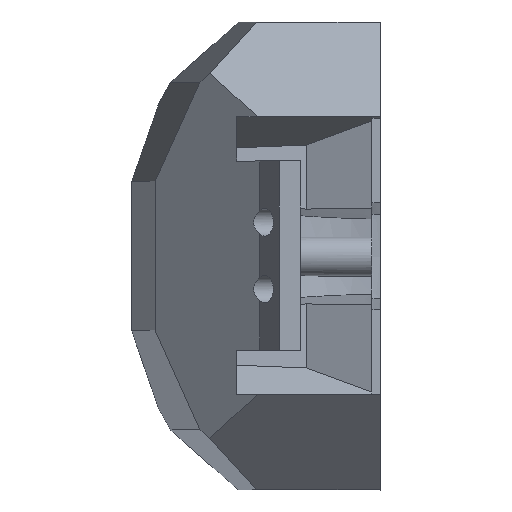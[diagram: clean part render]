
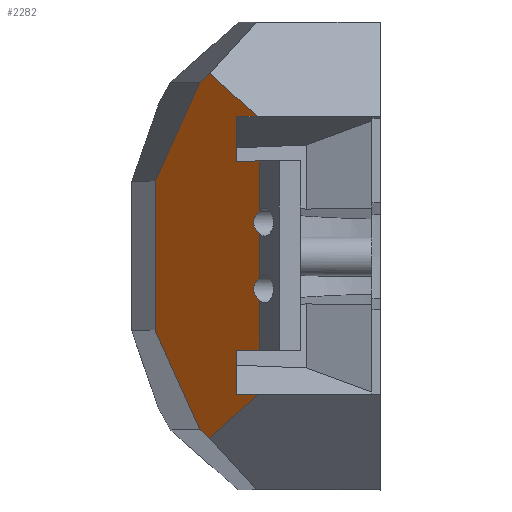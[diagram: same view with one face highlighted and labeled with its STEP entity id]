
A CAD part, top view. The second image highlights one B-rep face of the part: STEP entity #2282.
In plain terms, the highlighted planar face has unit normal (-0.676, 0, 0.737).
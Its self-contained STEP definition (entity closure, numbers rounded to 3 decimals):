
#22=DIRECTION('',(0.,-1.,0.));
#23=VECTOR('',#22,8.979);
#24=CARTESIAN_POINT('',(-25.817,17.,51.278));
#25=LINE('',#24,#23);
#34=DIRECTION('',(0.,-1.,0.));
#35=VECTOR('',#34,8.979);
#36=CARTESIAN_POINT('',(-25.817,-8.021,51.278));
#37=LINE('',#36,#35);
#58=DIRECTION('',(0.,-1.,0.));
#59=VECTOR('',#58,7.958);
#60=CARTESIAN_POINT('',(-25.817,3.979,51.278));
#61=LINE('',#60,#59);
#66=CARTESIAN_POINT('',(-25.817,3.979,51.278));
#67=CARTESIAN_POINT('',(-26.321,4.316,50.816));
#68=CARTESIAN_POINT('',(-26.782,4.99,50.394));
#69=CARTESIAN_POINT('',(-27.017,6.,50.178));
#70=CARTESIAN_POINT('',(-26.782,7.01,50.394));
#71=CARTESIAN_POINT('',(-26.321,7.684,50.816));
#72=CARTESIAN_POINT('',(-25.817,8.021,51.278));
#74=CARTESIAN_POINT('',(-25.817,-8.021,51.278));
#75=CARTESIAN_POINT('',(-26.321,-7.684,50.816));
#76=CARTESIAN_POINT('',(-26.782,-7.01,50.394));
#77=CARTESIAN_POINT('',(-27.017,-6.,50.178));
#78=CARTESIAN_POINT('',(-26.782,-4.99,50.394));
#79=CARTESIAN_POINT('',(-26.321,-4.316,50.816));
#80=CARTESIAN_POINT('',(-25.817,-3.979,51.278));
#82=DIRECTION('',(-0.737,0.,-0.676));
#83=VECTOR('',#82,5.674);
#84=CARTESIAN_POINT('',(-25.817,-17.,51.278));
#85=LINE('',#84,#83);
#86=DIRECTION('',(0.,-1.,0.));
#87=VECTOR('',#86,8.);
#88=CARTESIAN_POINT('',(-30.,-17.,47.445));
#89=LINE('',#88,#87);
#90=DIRECTION('',(-0.737,0.,-0.676));
#91=VECTOR('',#90,5.008);
#92=CARTESIAN_POINT('',(-26.307,-25.,50.828));
#93=LINE('',#92,#91);
#94=DIRECTION('',(0.385,-0.853,0.353));
#95=VECTOR('',#94,20.886);
#96=CARTESIAN_POINT('',(-44.657,-13.398,34.014));
#97=LINE('',#96,#95);
#98=DIRECTION('',(-0.385,-0.853,-0.353));
#99=VECTOR('',#98,20.886);
#100=CARTESIAN_POINT('',(-36.608,31.204,41.389));
#101=LINE('',#100,#99);
#102=DIRECTION('',(-0.737,0.,-0.676));
#103=VECTOR('',#102,5.008);
#104=CARTESIAN_POINT('',(-26.307,25.,50.828));
#105=LINE('',#104,#103);
#106=DIRECTION('',(0.,-1.,0.));
#107=VECTOR('',#106,8.);
#108=CARTESIAN_POINT('',(-30.,25.,47.445));
#109=LINE('',#108,#107);
#110=DIRECTION('',(-0.737,0.,-0.676));
#111=VECTOR('',#110,5.674);
#112=CARTESIAN_POINT('',(-25.817,17.,51.278));
#113=LINE('',#112,#111);
#996=DIRECTION('',(-0.611,0.56,-0.56));
#997=VECTOR('',#996,13.972);
#998=CARTESIAN_POINT('',(-26.307,25.,50.828));
#999=LINE('',#998,#997);
#1008=DIRECTION('',(-0.611,-0.56,-0.56));
#1009=VECTOR('',#1008,2.889);
#1010=CARTESIAN_POINT('',(-34.843,32.822,43.007));
#1011=LINE('',#1010,#1009);
#1024=DIRECTION('',(0.,-1.,0.));
#1025=VECTOR('',#1024,26.796);
#1026=CARTESIAN_POINT('',(-44.657,13.398,34.014));
#1027=LINE('',#1026,#1025);
#1040=DIRECTION('',(0.611,-0.56,0.56));
#1041=VECTOR('',#1040,2.889);
#1042=CARTESIAN_POINT('',(-36.608,-31.204,
41.389));
#1043=LINE('',#1042,#1041);
#1052=DIRECTION('',(0.611,0.56,0.56));
#1053=VECTOR('',#1052,13.972);
#1054=CARTESIAN_POINT('',(-34.843,-32.822,
43.007));
#1055=LINE('',#1054,#1053);
#1757=CARTESIAN_POINT('',(-34.843,32.822,43.007));
#1759=VERTEX_POINT('',#1757);
#1762=CARTESIAN_POINT('',(-34.843,-32.822,
43.007));
#1764=VERTEX_POINT('',#1762);
#1825=CARTESIAN_POINT('',(-36.608,31.204,41.389));
#1826=VERTEX_POINT('',#1825);
#1827=CARTESIAN_POINT('',(-44.657,13.398,34.014));
#1828=VERTEX_POINT('',#1827);
#1829=CARTESIAN_POINT('',(-44.657,-13.398,
34.014));
#1830=CARTESIAN_POINT('',(-36.608,-31.204,
41.389));
#1831=VERTEX_POINT('',#1829);
#1832=VERTEX_POINT('',#1830);
#1888=CARTESIAN_POINT('',(-25.817,-17.,51.278));
#1890=VERTEX_POINT('',#1888);
#1893=CARTESIAN_POINT('',(-30.,-25.,47.445));
#1895=VERTEX_POINT('',#1893);
#1897=CARTESIAN_POINT('',(-30.,-17.,47.445));
#1899=VERTEX_POINT('',#1897);
#1911=CARTESIAN_POINT('',(-26.307,-25.,50.828));
#1912=VERTEX_POINT('',#1911);
#1913=CARTESIAN_POINT('',(-30.,25.,47.445));
#1914=CARTESIAN_POINT('',(-30.,17.,47.445));
#1915=VERTEX_POINT('',#1913);
#1916=VERTEX_POINT('',#1914);
#1917=CARTESIAN_POINT('',(-25.817,17.,51.278));
#1918=VERTEX_POINT('',#1917);
#1919=CARTESIAN_POINT('',(-26.307,25.,50.828));
#1920=VERTEX_POINT('',#1919);
#1951=VERTEX_POINT('',#66);
#1952=VERTEX_POINT('',#72);
#1953=VERTEX_POINT('',#74);
#1954=VERTEX_POINT('',#80);
#2243=CARTESIAN_POINT('',(-34.843,0.,
43.007));
#2244=DIRECTION('',(0.676,0.,-0.737));
#2245=DIRECTION('',(0.737,0.,0.676));
#2246=AXIS2_PLACEMENT_3D('',#2243,#2244,#2245);
#2247=PLANE('',#2246);
#2248=ORIENTED_EDGE('',*,*,#2230,.F.);
#2249=ORIENTED_EDGE('',*,*,#2220,.T.);
#2251=ORIENTED_EDGE('',*,*,#2250,.F.);
#2252=ORIENTED_EDGE('',*,*,#2212,.T.);
#2254=ORIENTED_EDGE('',*,*,#2253,.T.);
#2256=ORIENTED_EDGE('',*,*,#2255,.T.);
#2258=ORIENTED_EDGE('',*,*,#2257,.F.);
#2260=ORIENTED_EDGE('',*,*,#2259,.F.);
#2262=ORIENTED_EDGE('',*,*,#2261,.F.);
#2264=ORIENTED_EDGE('',*,*,#2263,.F.);
#2266=ORIENTED_EDGE('',*,*,#2265,.F.);
#2268=ORIENTED_EDGE('',*,*,#2267,.F.);
#2270=ORIENTED_EDGE('',*,*,#2269,.F.);
#2272=ORIENTED_EDGE('',*,*,#2271,.F.);
#2274=ORIENTED_EDGE('',*,*,#2273,.T.);
#2276=ORIENTED_EDGE('',*,*,#2275,.T.);
#2278=ORIENTED_EDGE('',*,*,#2277,.F.);
#2279=ORIENTED_EDGE('',*,*,#2204,.T.);
#2280=EDGE_LOOP('',(#2248,#2249,#2251,#2252,#2254,#2256,#2258,#2260,#2262,#2264,
#2266,#2268,#2270,#2272,#2274,#2276,#2278,#2279));
#2281=FACE_OUTER_BOUND('',#2280,.F.);
#2282=ADVANCED_FACE('',(#2281),#2247,.F.);
#73=B_SPLINE_CURVE_WITH_KNOTS('',3,(#66,#67,#68,#69,#70,#71,#72),.UNSPECIFIED.,
.F.,.F.,(4,1,1,1,4),(0.,0.25,0.5,0.75,1.),.UNSPECIFIED.);
#81=B_SPLINE_CURVE_WITH_KNOTS('',3,(#74,#75,#76,#77,#78,#79,#80),.UNSPECIFIED.,
.F.,.F.,(4,1,1,1,4),(0.,0.25,0.5,0.75,1.),.UNSPECIFIED.);
#2204=EDGE_CURVE('',#1918,#1952,#25,.T.);
#2212=EDGE_CURVE('',#1953,#1890,#37,.T.);
#2220=EDGE_CURVE('',#1951,#1954,#61,.T.);
#2230=EDGE_CURVE('',#1951,#1952,#73,.T.);
#2250=EDGE_CURVE('',#1953,#1954,#81,.T.);
#2253=EDGE_CURVE('',#1890,#1899,#85,.T.);
#2255=EDGE_CURVE('',#1899,#1895,#89,.T.);
#2257=EDGE_CURVE('',#1912,#1895,#93,.T.);
#2259=EDGE_CURVE('',#1764,#1912,#1055,.T.);
#2261=EDGE_CURVE('',#1832,#1764,#1043,.T.);
#2263=EDGE_CURVE('',#1831,#1832,#97,.T.);
#2265=EDGE_CURVE('',#1828,#1831,#1027,.T.);
#2267=EDGE_CURVE('',#1826,#1828,#101,.T.);
#2269=EDGE_CURVE('',#1759,#1826,#1011,.T.);
#2271=EDGE_CURVE('',#1920,#1759,#999,.T.);
#2273=EDGE_CURVE('',#1920,#1915,#105,.T.);
#2275=EDGE_CURVE('',#1915,#1916,#109,.T.);
#2277=EDGE_CURVE('',#1918,#1916,#113,.T.);
